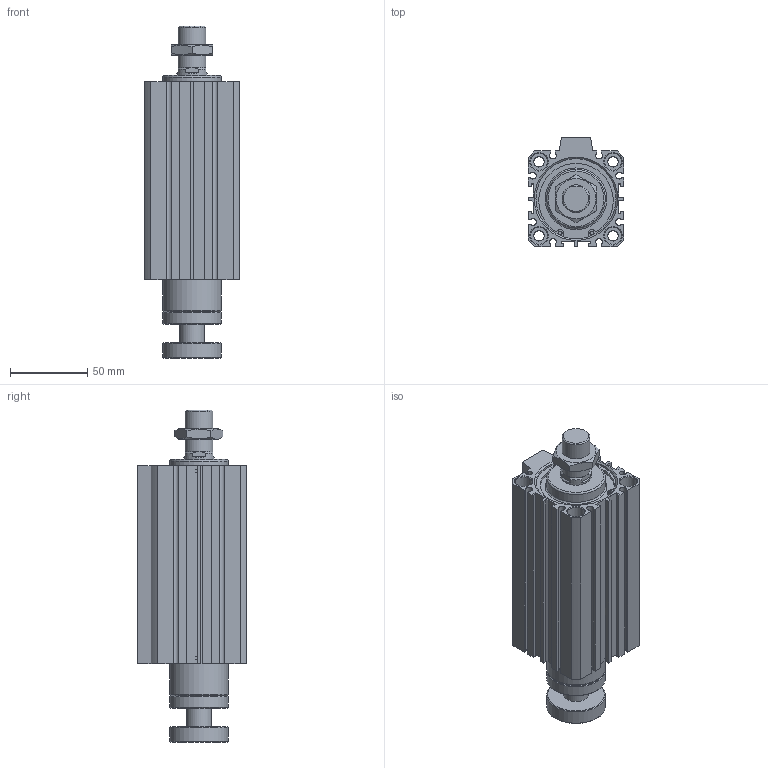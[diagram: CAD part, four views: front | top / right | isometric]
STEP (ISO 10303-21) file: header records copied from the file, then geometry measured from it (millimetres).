
FILE_DESCRIPTION((''),'2;1');
FILE_NAME('I:\3D電子目錄\氣缸\JDAR\JDAR-BS\JDAR50-BS\JDAR50x90-BS.stp','2007-05-05T14:20:57',('662F206'),(''),'Autodesk Inventor 11','Autodesk Inventor 11','');
FILE_SCHEMA(('AUTOMOTIVE_DESIGN { 1 0 10303 214 1 1 1 1 }'));
Length unit declared in the file: millimetre
Products named in the file (3): JDAR50-BS; R 形環 52
Assembly tree (3 placements, depth 2):
  JDAR50-BS
    JDAR50-BS
    R 形環 52  x2
Bounding box: 62 x 71 x 215.3 mm (x, y, z)
Volume: 503729.6 mm3; surface area: 87333.4 mm2
Topology: 3 solids, 3 shells, 204 faces, 493 edges, 321 vertices
Faces by surface type: plane 119, cylinder 56, cone 25, bspline 2, torus 2
Full cylindrical faces by diameter (mm): 2.3 x4, 2.7 x2, 6.8 x4, 11 x8, 16 x1, 18 x2, 20 x1, 38 x4, 52 x4, 55 x2
Entity records: 5422 total; most frequent: CARTESIAN_POINT 1023, DIRECTION 907, ORIENTED_EDGE 804, EDGE_CURVE 402, AXIS2_PLACEMENT_3D 329, VERTEX_POINT 295, EDGE_LOOP 285, VECTOR 249
